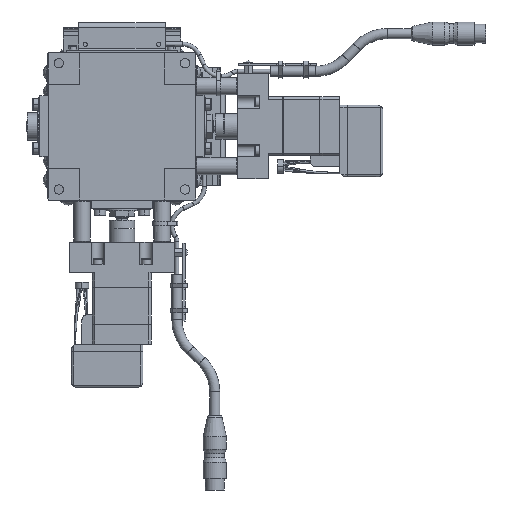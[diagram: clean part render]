
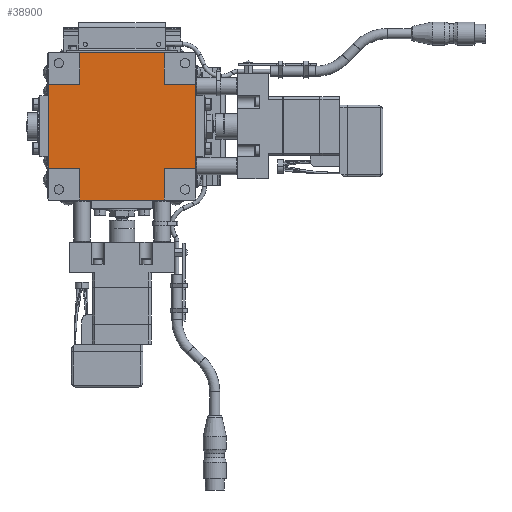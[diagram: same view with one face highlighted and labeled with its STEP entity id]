
A CAD part, front view. The second image highlights one B-rep face of the part: STEP entity #38900.
In plain terms, the highlighted planar face has unit normal (0, -1, 0).
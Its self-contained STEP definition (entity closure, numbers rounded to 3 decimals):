
#108 = ORIENTED_EDGE ( 'NONE', *, *, #3240, .T. ) ;
#494 = CARTESIAN_POINT ( 'NONE',  ( -20., 0.3, -35. ) ) ;
#645 = LINE ( 'NONE', #72807, #49151 ) ;
#1469 = VERTEX_POINT ( 'NONE', #63625 ) ;
#1565 = VECTOR ( 'NONE', #52203, 1000. ) ;
#2077 = CARTESIAN_POINT ( 'NONE',  ( -20., 0.3, -35. ) ) ;
#3240 = EDGE_CURVE ( 'NONE', #13391, #11570, #55335, .T. ) ;
#3489 = LINE ( 'NONE', #15298, #1565 ) ;
#6253 = VERTEX_POINT ( 'NONE', #26943 ) ;
#7257 = ORIENTED_EDGE ( 'NONE', *, *, #28128, .T. ) ;
#8137 = AXIS2_PLACEMENT_3D ( 'NONE', #49397, #12958, #13739 ) ;
#8287 = EDGE_CURVE ( 'NONE', #51798, #61722, #43488, .T. ) ;
#8465 = ORIENTED_EDGE ( 'NONE', *, *, #46158, .T. ) ;
#8957 = CARTESIAN_POINT ( 'NONE',  ( 20., 0.3, -35. ) ) ;
#9730 = FACE_OUTER_BOUND ( 'NONE', #12600, .T. ) ;
#11379 = LINE ( 'NONE', #14485, #40853 ) ;
#11570 = VERTEX_POINT ( 'NONE', #72590 ) ;
#12600 = EDGE_LOOP ( 'NONE', ( #67728, #7257, #30338, #8465, #23166, #49125, #41900, #37531, #108, #36139, #15039, #51128 ) ) ;
#12958 = DIRECTION ( 'NONE',  ( 0., 1., 0. ) ) ;
#13031 = CARTESIAN_POINT ( 'NONE',  ( -35., 0.3, -20. ) ) ;
#13391 = VERTEX_POINT ( 'NONE', #13031 ) ;
#13739 = DIRECTION ( 'NONE',  ( -1., 0., 0. ) ) ;
#14485 = CARTESIAN_POINT ( 'NONE',  ( -35., 0.3, 20. ) ) ;
#14647 = DIRECTION ( 'NONE',  ( 1., 0., 0. ) ) ;
#15039 = ORIENTED_EDGE ( 'NONE', *, *, #22172, .T. ) ;
#15288 = LINE ( 'NONE', #53810, #77914 ) ;
#15298 = CARTESIAN_POINT ( 'NONE',  ( 35., 0.3, 20. ) ) ;
#16473 = CARTESIAN_POINT ( 'NONE',  ( 20., 0.3, -35. ) ) ;
#18023 = CARTESIAN_POINT ( 'NONE',  ( 20., 0.3, 20. ) ) ;
#18501 = VECTOR ( 'NONE', #54962, 1000. ) ;
#19104 = VERTEX_POINT ( 'NONE', #53941 ) ;
#20119 = PLANE ( 'NONE',  #8137 ) ;
#20163 = VECTOR ( 'NONE', #29483, 1000. ) ;
#20317 = DIRECTION ( 'NONE',  ( 0., 0., -1. ) ) ;
#20476 = CARTESIAN_POINT ( 'NONE',  ( 20., 0.3, -20. ) ) ;
#22172 = EDGE_CURVE ( 'NONE', #37186, #51798, #59594, .T. ) ;
#23103 = DIRECTION ( 'NONE',  ( 0., 0., 1. ) ) ;
#23166 = ORIENTED_EDGE ( 'NONE', *, *, #43719, .T. ) ;
#23943 = CARTESIAN_POINT ( 'NONE',  ( -35., 0.3, 20. ) ) ;
#25630 = DIRECTION ( 'NONE',  ( 1., 0., 0. ) ) ;
#26611 = CARTESIAN_POINT ( 'NONE',  ( 20., 0.3, 20. ) ) ;
#26943 = CARTESIAN_POINT ( 'NONE',  ( -20., 0.3, 20. ) ) ;
#27366 = VECTOR ( 'NONE', #23103, 1000. ) ;
#28128 = EDGE_CURVE ( 'NONE', #19104, #75976, #3489, .T. ) ;
#28229 = LINE ( 'NONE', #58418, #78516 ) ;
#29210 = DIRECTION ( 'NONE',  ( 0., 0., 1. ) ) ;
#29483 = DIRECTION ( 'NONE',  ( 1., 0., 0. ) ) ;
#30338 = ORIENTED_EDGE ( 'NONE', *, *, #49203, .T. ) ;
#32378 = VERTEX_POINT ( 'NONE', #33355 ) ;
#33355 = CARTESIAN_POINT ( 'NONE',  ( -20., 0.3, 35. ) ) ;
#35250 = VECTOR ( 'NONE', #14647, 1000. ) ;
#36139 = ORIENTED_EDGE ( 'NONE', *, *, #58744, .T. ) ;
#36700 = DIRECTION ( 'NONE',  ( 0., 0., -1. ) ) ;
#37186 = VERTEX_POINT ( 'NONE', #2077 ) ;
#37463 = LINE ( 'NONE', #494, #18501 ) ;
#37531 = ORIENTED_EDGE ( 'NONE', *, *, #40033, .T. ) ;
#38482 = CARTESIAN_POINT ( 'NONE',  ( 35., 0.3, 20. ) ) ;
#38550 = EDGE_CURVE ( 'NONE', #61722, #19104, #39075, .T. ) ;
#38900 = ADVANCED_FACE ( 'NONE', ( #9730 ), #20119, .F. ) ;
#39075 = LINE ( 'NONE', #20476, #35250 ) ;
#39921 = CARTESIAN_POINT ( 'NONE',  ( 20., 0.3, -20. ) ) ;
#39928 = VECTOR ( 'NONE', #29210, 1000. ) ;
#40033 = EDGE_CURVE ( 'NONE', #48034, #13391, #11379, .T. ) ;
#40853 = VECTOR ( 'NONE', #20317, 1000. ) ;
#41491 = VECTOR ( 'NONE', #25630, 1000. ) ;
#41900 = ORIENTED_EDGE ( 'NONE', *, *, #44856, .T. ) ;
#42588 = LINE ( 'NONE', #66229, #76754 ) ;
#43488 = LINE ( 'NONE', #16473, #27366 ) ;
#43719 = EDGE_CURVE ( 'NONE', #1469, #32378, #28229, .T. ) ;
#44856 = EDGE_CURVE ( 'NONE', #6253, #48034, #15288, .T. ) ;
#46158 = EDGE_CURVE ( 'NONE', #61038, #1469, #76915, .T. ) ;
#47702 = DIRECTION ( 'NONE',  ( -1., 0., 0. ) ) ;
#48034 = VERTEX_POINT ( 'NONE', #23943 ) ;
#49125 = ORIENTED_EDGE ( 'NONE', *, *, #75163, .T. ) ;
#49151 = VECTOR ( 'NONE', #36700, 1000. ) ;
#49203 = EDGE_CURVE ( 'NONE', #75976, #61038, #42588, .T. ) ;
#49397 = CARTESIAN_POINT ( 'NONE',  ( 0., 0.3, 0. ) ) ;
#51128 = ORIENTED_EDGE ( 'NONE', *, *, #8287, .T. ) ;
#51773 = DIRECTION ( 'NONE',  ( -1., 0., 0. ) ) ;
#51798 = VERTEX_POINT ( 'NONE', #8957 ) ;
#52203 = DIRECTION ( 'NONE',  ( 0., 0., 1. ) ) ;
#53810 = CARTESIAN_POINT ( 'NONE',  ( -35., 0.3, 20. ) ) ;
#53941 = CARTESIAN_POINT ( 'NONE',  ( 35., 0.3, -20. ) ) ;
#54962 = DIRECTION ( 'NONE',  ( 0., 0., -1. ) ) ;
#55335 = LINE ( 'NONE', #77988, #20163 ) ;
#58418 = CARTESIAN_POINT ( 'NONE',  ( -20., 0.3, 35. ) ) ;
#58744 = EDGE_CURVE ( 'NONE', #11570, #37186, #37463, .T. ) ;
#59380 = DIRECTION ( 'NONE',  ( -1., 0., 0. ) ) ;
#59594 = LINE ( 'NONE', #67517, #41491 ) ;
#61038 = VERTEX_POINT ( 'NONE', #26611 ) ;
#61722 = VERTEX_POINT ( 'NONE', #39921 ) ;
#63625 = CARTESIAN_POINT ( 'NONE',  ( 20., 0.3, 35. ) ) ;
#66229 = CARTESIAN_POINT ( 'NONE',  ( 20., 0.3, 20. ) ) ;
#67517 = CARTESIAN_POINT ( 'NONE',  ( -20., 0.3, -35. ) ) ;
#67728 = ORIENTED_EDGE ( 'NONE', *, *, #38550, .T. ) ;
#72590 = CARTESIAN_POINT ( 'NONE',  ( -20., 0.3, -20. ) ) ;
#72807 = CARTESIAN_POINT ( 'NONE',  ( -20., 0.3, 20. ) ) ;
#75163 = EDGE_CURVE ( 'NONE', #32378, #6253, #645, .T. ) ;
#75976 = VERTEX_POINT ( 'NONE', #38482 ) ;
#76754 = VECTOR ( 'NONE', #47702, 1000. ) ;
#76915 = LINE ( 'NONE', #18023, #39928 ) ;
#77914 = VECTOR ( 'NONE', #59380, 1000. ) ;
#77988 = CARTESIAN_POINT ( 'NONE',  ( -35., 0.3, -20. ) ) ;
#78516 = VECTOR ( 'NONE', #51773, 1000. ) ;
